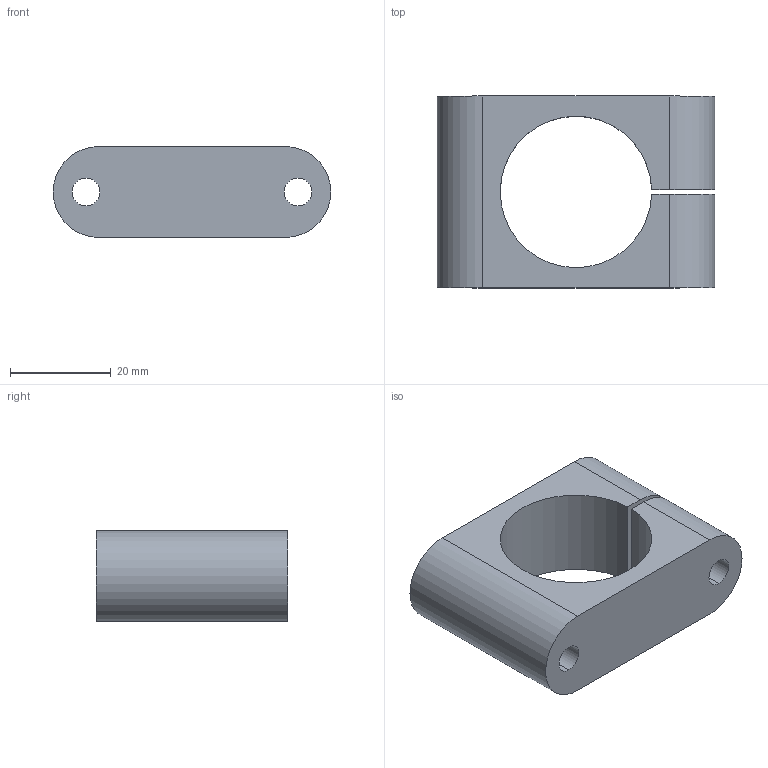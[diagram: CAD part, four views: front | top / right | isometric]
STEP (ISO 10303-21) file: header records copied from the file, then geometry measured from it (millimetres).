
FILE_DESCRIPTION (( 'STEP AP214' ), '1' );
FILE_NAME ('PB30-M2.step', '2018-07-17T14:45:08', ( '' ), ( '' ), 'SwSTEP 2.0', 'SolidWorks 2018', '' );
FILE_SCHEMA (( 'AUTOMOTIVE_DESIGN' ));
Length unit declared in the file: millimetre
Products named in the file (1): PB30-M2
Bounding box: 55 x 38 x 18 mm (x, y, z)
Volume: 19734.4 mm3; surface area: 8706.7 mm2
Topology: 1 solids, 1 shells, 22 faces, 54 edges, 36 vertices
Faces by surface type: cylinder 14, plane 8
Entity records: 712 total; most frequent: DIRECTION 128, CARTESIAN_POINT 113, ORIENTED_EDGE 108, EDGE_CURVE 54, AXIS2_PLACEMENT_3D 51, VERTEX_POINT 36, EDGE_LOOP 30, CIRCLE 28
